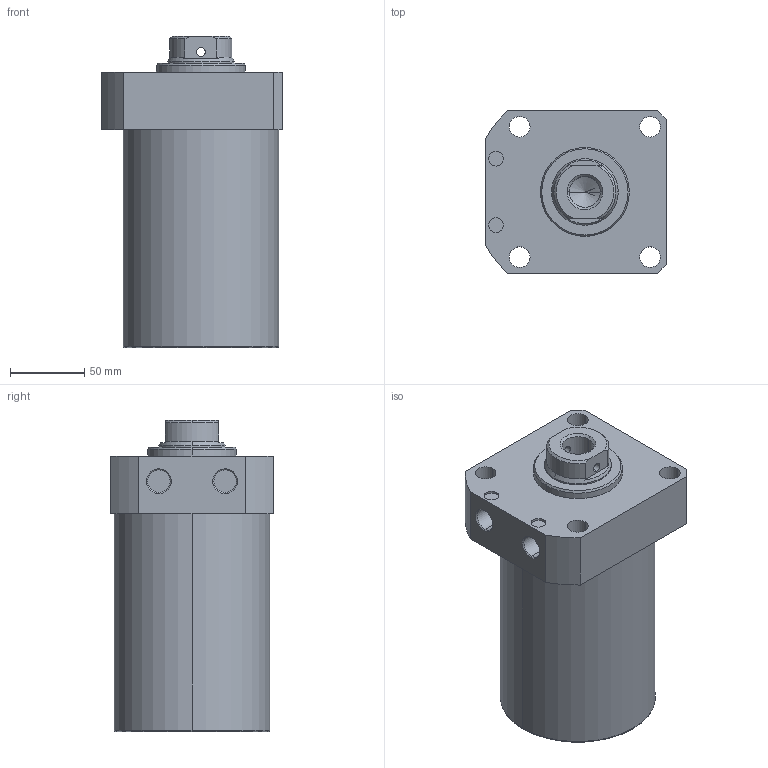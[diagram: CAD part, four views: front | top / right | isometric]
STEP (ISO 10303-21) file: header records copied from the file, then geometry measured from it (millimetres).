
FILE_DESCRIPTION (( 'STEP AP203' ), '1' );
FILE_NAME ('CLLR-105CB-100.STEP', '2019-12-18T07:28:57', ( '' ), ( '' ), 'SwSTEP 2.0', 'SolidWorks 2015', '' );
FILE_SCHEMA (( 'CONFIG_CONTROL_DESIGN' ));
Length unit declared in the file: millimetre
Products named in the file (1): CLLR-105CB-100
Bounding box: 122 x 110 x 210 mm (x, y, z)
Volume: 1769603.4 mm3; surface area: 107253 mm2
Topology: 1 solids, 1 shells, 69 faces, 165 edges, 104 vertices
Faces by surface type: cylinder 33, plane 19, cone 15, torus 2
Entity records: 2227 total; most frequent: CARTESIAN_POINT 481, DIRECTION 372, ORIENTED_EDGE 326, EDGE_CURVE 163, AXIS2_PLACEMENT_3D 151, VERTEX_POINT 104, EDGE_LOOP 89, CIRCLE 81
